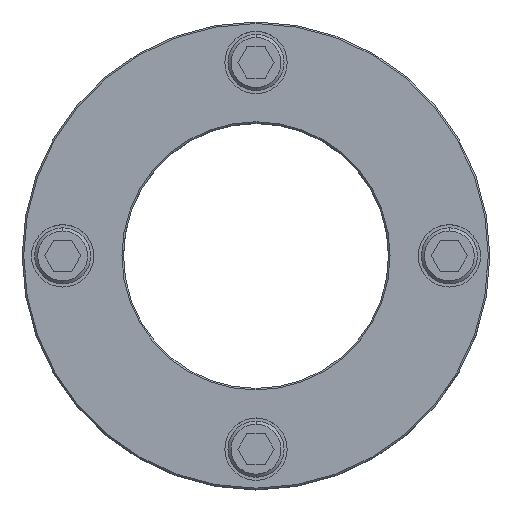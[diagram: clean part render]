
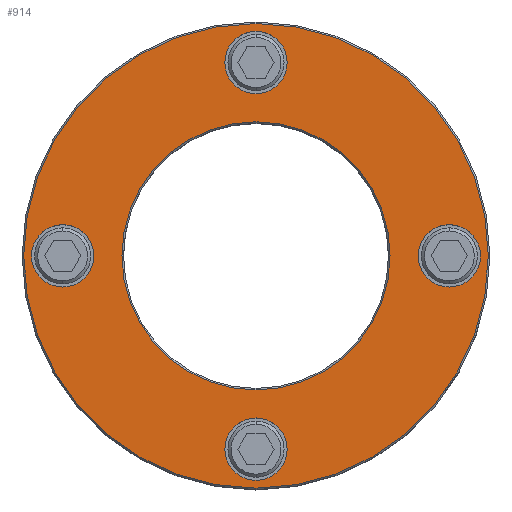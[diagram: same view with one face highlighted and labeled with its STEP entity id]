
A CAD part, top view. The second image highlights one B-rep face of the part: STEP entity #914.
In plain terms, the highlighted planar face has unit normal (0, 0, 1).
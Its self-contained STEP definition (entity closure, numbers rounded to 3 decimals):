
#105=VERTEX_POINT(' ',#106);
#106=CARTESIAN_POINT('',(0.,52.,55.));
#107=VERTEX_POINT(' ',#108);
#108=CARTESIAN_POINT('',(0.,72.,55.));
#113=VERTEX_POINT(' ',#114);
#114=CARTESIAN_POINT('',(0.,-72.,55.));
#115=VERTEX_POINT(' ',#116);
#116=CARTESIAN_POINT('',(0.,-52.,55.));
#125=VERTEX_POINT(' ',#126);
#126=CARTESIAN_POINT('',(62.,10.,55.));
#127=VERTEX_POINT(' ',#128);
#128=CARTESIAN_POINT('',(62.,-10.,55.));
#133=VERTEX_POINT(' ',#134);
#134=CARTESIAN_POINT('',(-62.,10.,55.));
#135=VERTEX_POINT(' ',#136);
#136=CARTESIAN_POINT('',(-62.,-10.,55.));
#155=VERTEX_POINT(' ',#156);
#156=CARTESIAN_POINT('',(0.,74.5,55.));
#157=VERTEX_POINT(' ',#158);
#158=CARTESIAN_POINT('',(0.,-74.5,55.));
#161=VERTEX_POINT(' ',#162);
#162=CARTESIAN_POINT('',(0.,-43.,55.));
#163=VERTEX_POINT(' ',#164);
#164=CARTESIAN_POINT('',(0.,43.,55.));
#253=CIRCLE('',#254,10.);
#254=AXIS2_PLACEMENT_3D('',#255,#256,#257);
#255=CARTESIAN_POINT('',(0.,62.,55.));
#256=DIRECTION('',(0.,0.,-1.));
#257=DIRECTION('',(-1.,0.,0.));
#258=EDGE_CURVE(' ',#105,#107,#253,.F.);
#275=CIRCLE('',#276,10.);
#276=AXIS2_PLACEMENT_3D('',#277,#278,#279);
#277=CARTESIAN_POINT('',(0.,62.,55.));
#278=DIRECTION('',(0.,0.,-1.));
#279=DIRECTION('',(1.,0.,0.));
#280=EDGE_CURVE(' ',#107,#105,#275,.F.);
#287=CIRCLE('',#288,10.);
#288=AXIS2_PLACEMENT_3D('',#289,#290,#291);
#289=CARTESIAN_POINT('',(0.,-62.,55.));
#290=DIRECTION('',(0.,0.,-1.));
#291=DIRECTION('',(-1.,0.,0.));
#292=EDGE_CURVE(' ',#113,#115,#287,.F.);
#309=CIRCLE('',#310,10.);
#310=AXIS2_PLACEMENT_3D('',#311,#312,#313);
#311=CARTESIAN_POINT('',(0.,-62.,55.));
#312=DIRECTION('',(0.,0.,-1.));
#313=DIRECTION('',(1.,0.,0.));
#314=EDGE_CURVE(' ',#115,#113,#309,.F.);
#332=CIRCLE('',#333,10.);
#333=AXIS2_PLACEMENT_3D('',#334,#335,#336);
#334=CARTESIAN_POINT('',(62.,0.,55.));
#335=DIRECTION('',(0.,0.,1.));
#336=DIRECTION('',(1.,0.,0.));
#337=EDGE_CURVE(' ',#125,#127,#332,.T.);
#349=CIRCLE('',#350,10.);
#350=AXIS2_PLACEMENT_3D('',#351,#352,#353);
#351=CARTESIAN_POINT('',(62.,0.,55.));
#352=DIRECTION('',(0.,0.,1.));
#353=DIRECTION('',(-1.,0.,0.));
#354=EDGE_CURVE(' ',#127,#125,#349,.T.);
#366=CIRCLE('',#367,10.);
#367=AXIS2_PLACEMENT_3D('',#368,#369,#370);
#368=CARTESIAN_POINT('',(-62.,0.,55.));
#369=DIRECTION('',(0.,0.,1.));
#370=DIRECTION('',(1.,0.,0.));
#371=EDGE_CURVE(' ',#133,#135,#366,.T.);
#383=CIRCLE('',#384,10.);
#384=AXIS2_PLACEMENT_3D('',#385,#386,#387);
#385=CARTESIAN_POINT('',(-62.,0.,55.));
#386=DIRECTION('',(0.,0.,1.));
#387=DIRECTION('',(-1.,0.,0.));
#388=EDGE_CURVE(' ',#135,#133,#383,.T.);
#462=CIRCLE('',#463,74.5);
#463=AXIS2_PLACEMENT_3D('',#464,#465,#466);
#464=CARTESIAN_POINT('',(0.,0.,55.));
#465=DIRECTION('',(0.,0.,1.));
#466=DIRECTION('',(-1.,0.,0.));
#467=EDGE_CURVE(' ',#155,#157,#462,.F.);
#485=CIRCLE('',#486,74.5);
#486=AXIS2_PLACEMENT_3D('',#487,#488,#489);
#487=CARTESIAN_POINT('',(0.,0.,55.));
#488=DIRECTION('',(0.,0.,1.));
#489=DIRECTION('',(1.,0.,0.));
#490=EDGE_CURVE(' ',#157,#155,#485,.F.);
#491=CIRCLE('',#492,43.);
#492=AXIS2_PLACEMENT_3D('',#493,#494,#495);
#493=CARTESIAN_POINT('',(0.,0.,55.));
#494=DIRECTION('',(0.,0.,-1.));
#495=DIRECTION('',(1.,0.,0.));
#496=EDGE_CURVE(' ',#163,#161,#491,.F.);
#497=CIRCLE('',#498,43.);
#498=AXIS2_PLACEMENT_3D('',#499,#500,#501);
#499=CARTESIAN_POINT('',(0.,0.,55.));
#500=DIRECTION('',(0.,0.,-1.));
#501=DIRECTION('',(-1.,0.,0.));
#502=EDGE_CURVE(' ',#161,#163,#497,.F.);
#885=ORIENTED_EDGE('',*,*,#467,.F.);
#886=ORIENTED_EDGE('',*,*,#490,.F.);
#887=EDGE_LOOP('',(#885,#886));
#888=FACE_OUTER_BOUND('',#887,.T.);
#889=ORIENTED_EDGE('',*,*,#496,.F.);
#890=ORIENTED_EDGE('',*,*,#502,.F.);
#891=EDGE_LOOP('',(#889,#890));
#892=FACE_BOUND('',#891,.T.);
#893=ORIENTED_EDGE('',*,*,#388,.F.);
#894=ORIENTED_EDGE('',*,*,#371,.F.);
#895=EDGE_LOOP('',(#893,#894));
#896=FACE_BOUND('',#895,.T.);
#897=ORIENTED_EDGE('',*,*,#354,.F.);
#898=ORIENTED_EDGE('',*,*,#337,.F.);
#899=EDGE_LOOP('',(#897,#898));
#900=FACE_BOUND('',#899,.T.);
#901=ORIENTED_EDGE('',*,*,#314,.F.);
#902=ORIENTED_EDGE('',*,*,#292,.F.);
#903=EDGE_LOOP('',(#901,#902));
#904=FACE_BOUND('',#903,.T.);
#905=ORIENTED_EDGE('',*,*,#280,.F.);
#906=ORIENTED_EDGE('',*,*,#258,.F.);
#907=EDGE_LOOP('',(#905,#906));
#908=FACE_BOUND('',#907,.T.);
#909=PLANE('',#910);
#910=AXIS2_PLACEMENT_3D('',#911,#912,#913);
#911=CARTESIAN_POINT('',(75.,0.,55.));
#912=DIRECTION('',(0.,0.,1.));
#913=DIRECTION('',(0.,1.,0.));
#914=ADVANCED_FACE('',(#888,#892,#896,#900,#904,#908),#909,.T.);
